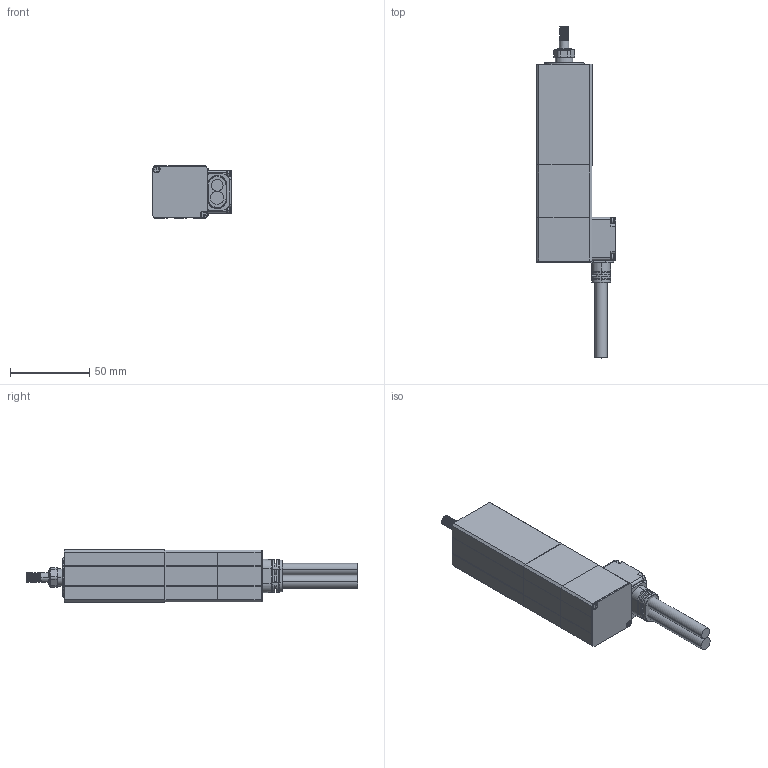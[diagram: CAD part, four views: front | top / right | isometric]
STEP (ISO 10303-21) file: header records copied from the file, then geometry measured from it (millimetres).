
FILE_DESCRIPTION (( 'STEP AP214' ), '1' );
FILE_NAME ('RCEA-3M-050-E-W-F_潠眢耀倰V1.0_20250311.STEP', '2025-03-11T06:37:58', ( '' ), ( '' ), 'SwSTEP 2.0', 'SolidWorks 2020', '' );
FILE_SCHEMA (( 'AUTOMOTIVE_DESIGN' ));
Length unit declared in the file: millimetre
Products named in the file (4): RCEA-3M-050-E-W-F_潠眢耀倰V1.0_20250311; Group3^RCEA-3M-50-E-W-F_潠眢耀倰V1.0_20250311; Group4^RCEA-3M-50-E-W-F_潠眢耀倰V1.0_20250311; Group1^RCEA-3M-50-E-W-F_潠眢耀倰V1.0_20250311
Assembly tree (3 placements, depth 2):
  RCEA-3M-050-E-W-F_潠眢耀倰V1.0_20250311
    Group1^RCEA-3M-50-E-W-F_潠眢耀倰V1.0_20250311
    Group3^RCEA-3M-50-E-W-F_潠眢耀倰V1.0_20250311
    Group4^RCEA-3M-50-E-W-F_潠眢耀倰V1.0_20250311
Bounding box: 49.85 x 209 x 33 mm (x, y, z)
Volume: 122313.2 mm3; surface area: 44395 mm2
Topology: 9 solids, 22 shells, 739 faces, 1873 edges, 1187 vertices
Faces by surface type: plane 311, cylinder 298, cone 116, bspline 10, torus 4
Entity records: 33817 total; most frequent: CARTESIAN_POINT 7682, DIRECTION 3746, ORIENTED_EDGE 3690, EDGE_CURVE 1847, AXIS2_PLACEMENT_3D 1329, VERTEX_POINT 1187, VECTOR 1088, LINE 1088
